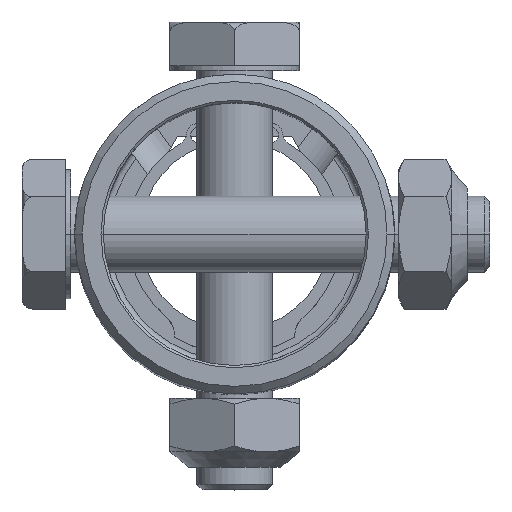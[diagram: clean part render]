
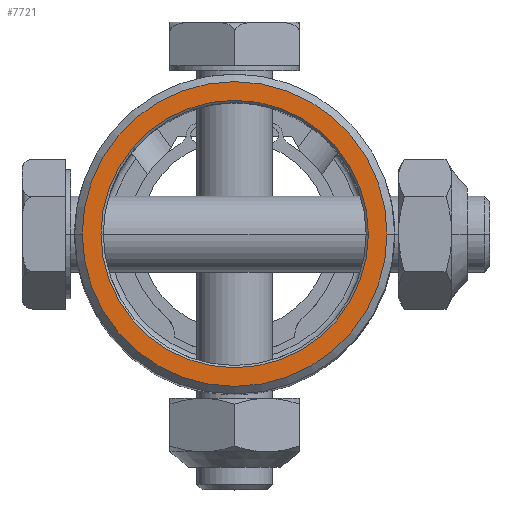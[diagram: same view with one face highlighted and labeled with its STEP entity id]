
A CAD part, top view. The second image highlights one B-rep face of the part: STEP entity #7721.
In plain terms, the highlighted planar face has unit normal (0, 0, 1).
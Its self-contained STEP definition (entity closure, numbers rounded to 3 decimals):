
#43 = AXIS2_PLACEMENT_3D ( 'NONE', #9450, #4925, #9431 ) ;
#217 = CIRCLE ( 'NONE', #7706, 17.55 ) ;
#273 = CARTESIAN_POINT ( 'NONE',  ( -20., 0., 132. ) ) ;
#427 = AXIS2_PLACEMENT_3D ( 'NONE', #8550, #9187, #9324 ) ;
#1269 = EDGE_LOOP ( 'NONE', ( #7477, #2128 ) ) ;
#1285 = EDGE_CURVE ( 'NONE', #8103, #3903, #6635, .T. ) ;
#2128 = ORIENTED_EDGE ( 'NONE', *, *, #1285, .T. ) ;
#2386 = VERTEX_POINT ( 'NONE', #2740 ) ;
#2740 = CARTESIAN_POINT ( 'NONE',  ( 17.55, 0., 132. ) ) ;
#3020 = CARTESIAN_POINT ( 'NONE',  ( -17.55, 0., 132. ) ) ;
#3312 = FACE_OUTER_BOUND ( 'NONE', #1269, .T. ) ;
#3903 = VERTEX_POINT ( 'NONE', #273 ) ;
#3953 = EDGE_CURVE ( 'NONE', #3903, #8103, #8262, .T. ) ;
#4227 = EDGE_CURVE ( 'NONE', #5793, #2386, #217, .T. ) ;
#4548 = DIRECTION ( 'NONE',  ( 1., 0., 0. ) ) ;
#4553 = DIRECTION ( 'NONE',  ( 0., 0., 1. ) ) ;
#4555 = CARTESIAN_POINT ( 'NONE',  ( 0., 0., 132. ) ) ;
#4732 = PLANE ( 'NONE',  #8566 ) ;
#4799 = CARTESIAN_POINT ( 'NONE',  ( 20., 0., 132. ) ) ;
#4925 = DIRECTION ( 'NONE',  ( 0., 0., -1. ) ) ;
#5793 = VERTEX_POINT ( 'NONE', #3020 ) ;
#5908 = CIRCLE ( 'NONE', #43, 17.55 ) ;
#6212 = ORIENTED_EDGE ( 'NONE', *, *, #4227, .T. ) ;
#6224 = ORIENTED_EDGE ( 'NONE', *, *, #6772, .T. ) ;
#6635 = CIRCLE ( 'NONE', #427, 20. ) ;
#6772 = EDGE_CURVE ( 'NONE', #2386, #5793, #5908, .T. ) ;
#7263 = DIRECTION ( 'NONE',  ( 0., 0., 1. ) ) ;
#7278 = DIRECTION ( 'NONE',  ( 1., 0., 0. ) ) ;
#7300 = CARTESIAN_POINT ( 'NONE',  ( 0., 0., 132. ) ) ;
#7477 = ORIENTED_EDGE ( 'NONE', *, *, #3953, .T. ) ;
#7706 = AXIS2_PLACEMENT_3D ( 'NONE', #9404, #9390, #9377 ) ;
#7721 = ADVANCED_FACE ( 'NONE', ( #3312, #9144 ), #4732, .T. ) ;
#8088 = EDGE_LOOP ( 'NONE', ( #6224, #6212 ) ) ;
#8103 = VERTEX_POINT ( 'NONE', #4799 ) ;
#8262 = CIRCLE ( 'NONE', #8314, 20. ) ;
#8314 = AXIS2_PLACEMENT_3D ( 'NONE', #7300, #7263, #7278 ) ;
#8550 = CARTESIAN_POINT ( 'NONE',  ( 0., 0., 132. ) ) ;
#8566 = AXIS2_PLACEMENT_3D ( 'NONE', #4555, #4553, #4548 ) ;
#9144 = FACE_BOUND ( 'NONE', #8088, .T. ) ;
#9187 = DIRECTION ( 'NONE',  ( 0., 0., 1. ) ) ;
#9324 = DIRECTION ( 'NONE',  ( 1., 0., 0. ) ) ;
#9377 = DIRECTION ( 'NONE',  ( 1., 0., 0. ) ) ;
#9390 = DIRECTION ( 'NONE',  ( 0., 0., -1. ) ) ;
#9404 = CARTESIAN_POINT ( 'NONE',  ( 0., 0., 132. ) ) ;
#9431 = DIRECTION ( 'NONE',  ( 1., 0., 0. ) ) ;
#9450 = CARTESIAN_POINT ( 'NONE',  ( 0., 0., 132. ) ) ;
